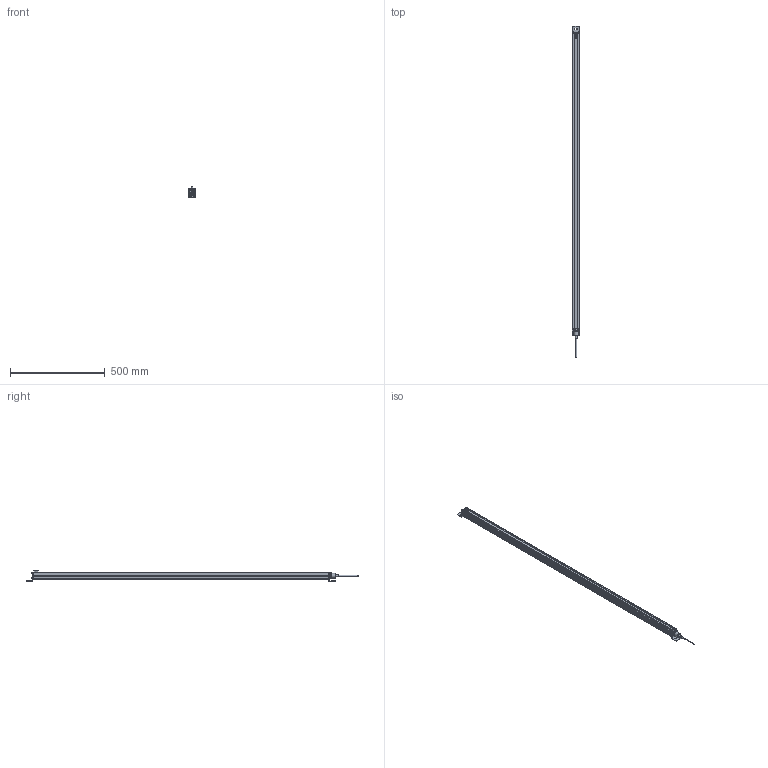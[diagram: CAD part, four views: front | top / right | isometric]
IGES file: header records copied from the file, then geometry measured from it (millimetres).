
Global section: file name: MG-60-PYLON_3D_L; native system: AutoCAD 2018 - English; preprocessor: Autodesk Translation Framework DWG producer (atf_dwg_producer); organization: unknown; date: 20180612.085849; units: inch
Bounding box: 37.1 x 1748.8 x 53.51 mm (x, y, z)
Volume: 591143.8 mm3; surface area: 592067 mm2
Topology: 25 solids, 25 shells, 625 faces, 1529 edges, 1009 vertices
Faces by surface type: bspline 625
